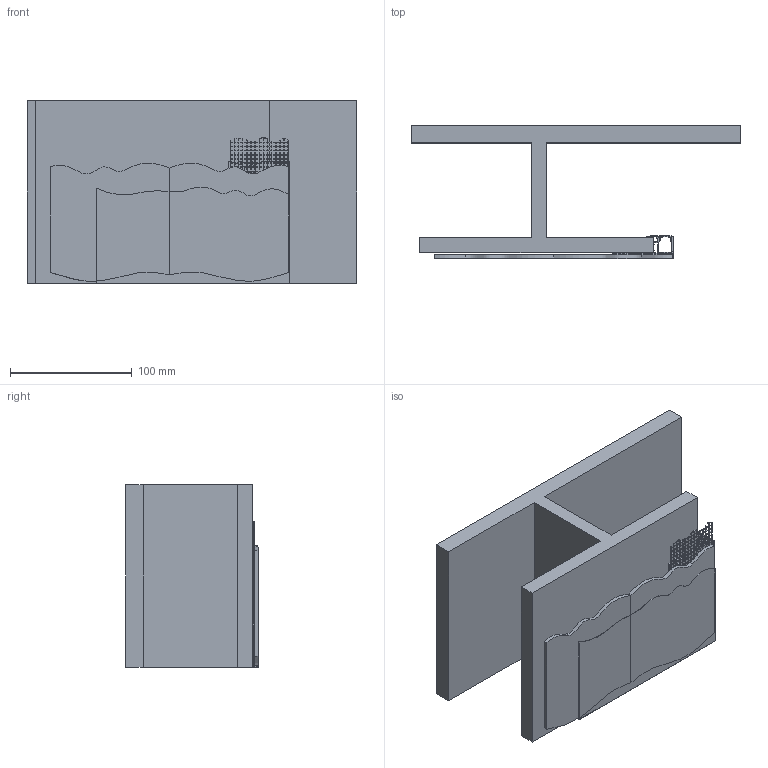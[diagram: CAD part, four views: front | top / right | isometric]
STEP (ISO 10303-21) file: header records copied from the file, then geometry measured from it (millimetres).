
FILE_DESCRIPTION(/* description */ (''),/* implementation_level */ '2;1');
FILE_NAME(/* name */ 'W:\R&D\pub\Katalog techniczny\Bryły PIM\STP\Nowe Glax-y\PA-GLAXGKW3M-00_kpl.stp',/* time_stamp */ '2019-10-10T10:24:59+02:00',/* author */ ('tomaszw'),/* organization */ (''),/* preprocessor_version */ 'ST-DEVELOPER v17.2',/* originating_system */ 'Autodesk Inventor 2019',/* authorisation */ '');
FILE_SCHEMA (('AUTOMOTIVE_DESIGN { 1 0 10303 214 3 1 1 }'));
Products named in the file (7): Złożenie_sufit_1; C-LED-03-01; siatka; sufit podwieszany; gips; GTV-218 -05; farba
Assembly tree (7 placements, depth 2):
  Złożenie_sufit_1
    C-LED-03-01
    siatka
    gips  x2
    sufit podwieszany
    GTV-218 -05
    farba
Bounding box: 271.17 x 109.34 x 150 mm (x, y, z)
Volume: 1155827.4 mm3; surface area: 271289.5 mm2
Topology: 7 solids, 7 shells, 2284 faces, 6810 edges, 4540 vertices
Faces by surface type: plane 2223, cylinder 36, bspline 25
Entity records: 78260 total; most frequent: CARTESIAN_POINT 14563, ORIENTED_EDGE 13590, DIRECTION 11326, EDGE_CURVE 6795, LINE 6644, VECTOR 6644, VERTEX_POINT 4530, EDGE_LOOP 3289
